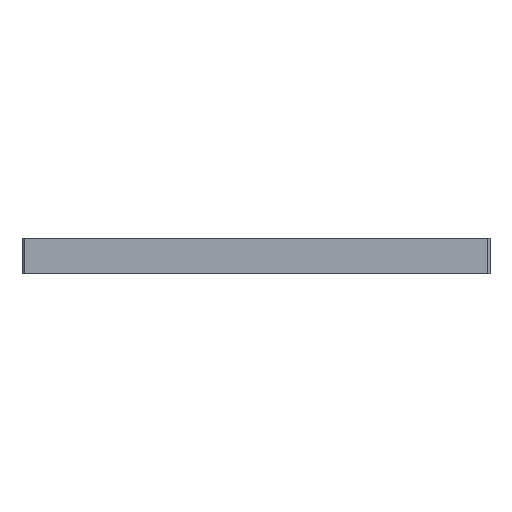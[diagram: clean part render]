
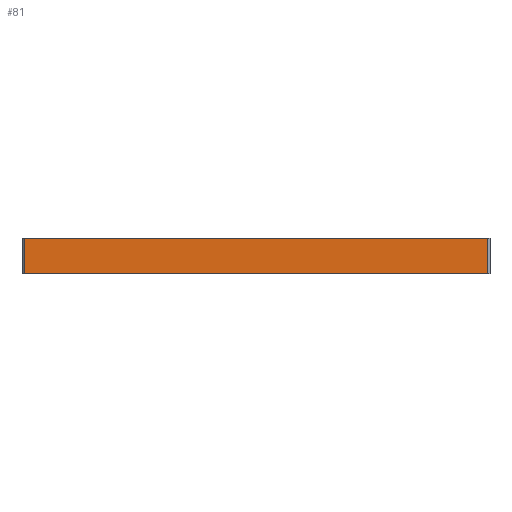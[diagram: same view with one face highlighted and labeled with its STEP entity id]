
A CAD part, front view. The second image highlights one B-rep face of the part: STEP entity #81.
In plain terms, the highlighted planar face has unit normal (0, -1, 0).
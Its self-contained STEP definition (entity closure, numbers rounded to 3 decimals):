
#81=ADVANCED_FACE('',(#381),#380,.T.);
#380=PLANE('',#2529);
#381=FACE_OUTER_BOUND('',#2530,.T.);
#2526=CARTESIAN_POINT('',(209.,-218.,1.5));
#2527=DIRECTION('',(0.,-1.,0.));
#2528=DIRECTION('',(-1.,0.,0.));
#2529=AXIS2_PLACEMENT_3D('',#2526,#2527,#2528);
#2530=EDGE_LOOP('',(#4021,#4022,#4023,#4024));
#4021=ORIENTED_EDGE('',*,*,#5018,.F.);
#4022=ORIENTED_EDGE('',*,*,#5015,.T.);
#4023=ORIENTED_EDGE('',*,*,#4931,.F.);
#4024=ORIENTED_EDGE('',*,*,#5013,.T.);
#4931=EDGE_CURVE('',#5457,#5458,#5459,.T.);
#5013=EDGE_CURVE('',#5457,#6021,#6029,.T.);
#5015=EDGE_CURVE('',#6041,#5458,#6042,.T.);
#5018=EDGE_CURVE('',#6041,#6021,#6061,.T.);
#5457=VERTEX_POINT('',#8757);
#5458=VERTEX_POINT('',#8758);
#5459=LINE('',#8759,#8760);
#6021=VERTEX_POINT('',#9148);
#6029=LINE('',#9153,#9154);
#6041=VERTEX_POINT('',#9159);
#6042=LINE('',#9160,#9161);
#6061=LINE('',#9170,#9171);
#8757=CARTESIAN_POINT('',(1.,-218.,0.));
#8758=CARTESIAN_POINT('',(199.,-218.,0.));
#8759=CARTESIAN_POINT('',(1.,-218.,0.));
#8760=VECTOR('',#8761,198.);
#8761=DIRECTION('',(1.,0.,0.));
#9148=CARTESIAN_POINT('',(1.,-218.,-15.));
#9153=CARTESIAN_POINT('',(1.,-218.,0.));
#9154=VECTOR('',#9155,15.);
#9155=DIRECTION('',(0.,0.,-1.));
#9159=CARTESIAN_POINT('',(199.,-218.,-15.));
#9160=CARTESIAN_POINT('',(199.,-218.,-15.));
#9161=VECTOR('',#9162,15.);
#9162=DIRECTION('',(0.,0.,1.));
#9170=CARTESIAN_POINT('',(199.,-218.,-15.));
#9171=VECTOR('',#9172,198.);
#9172=DIRECTION('',(-1.,0.,0.));
